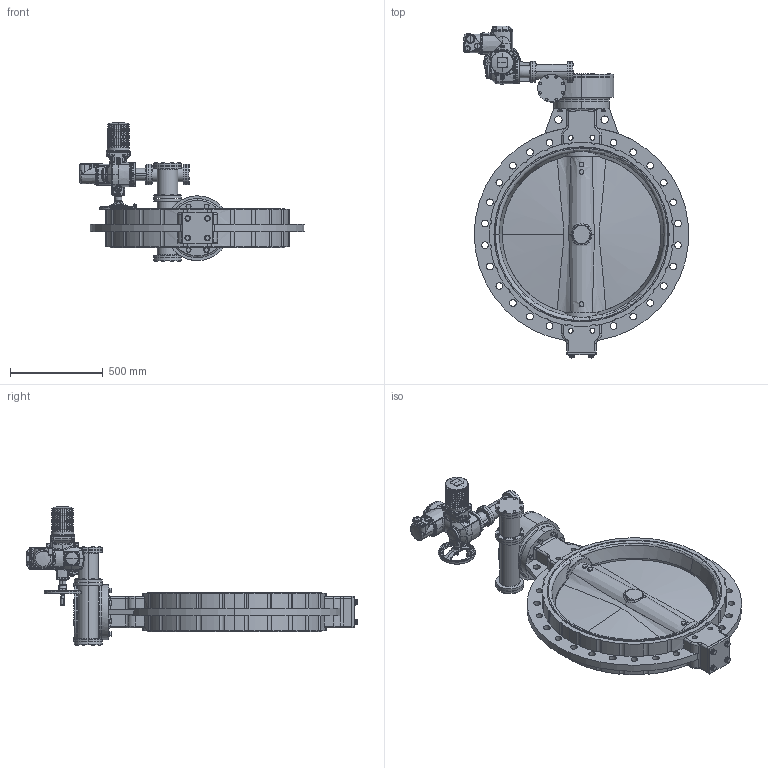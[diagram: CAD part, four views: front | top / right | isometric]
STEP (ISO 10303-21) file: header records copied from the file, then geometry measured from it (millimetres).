
FILE_DESCRIPTION (( 'STEP AP214' ), '1' );
FILE_NAME ('VPE440X-U04EP0900.STEP', '2020-08-04T16:20:34', ( '' ), ( '' ), 'SwSTEP 2.0', 'SolidWorks 2017', '' );
FILE_SCHEMA (( 'AUTOMOTIVE_DESIGN' ));
Length unit declared in the file: millimetre
Products named in the file (1): VPE440X-U04EP0900
Bounding box: 1216.05 x 1793.9 x 754.06 mm (x, y, z)
Surface area: 5776823.9 mm2 (no closed solid volume)
Topology: 0 solids, 181 shells, 1884 faces, 6599 edges, 4680 vertices
Faces by surface type: bspline 536, cylinder 531, plane 515, cone 261, torus 41
Entity records: 200668 total; most frequent: CARTESIAN_POINT 130102, ORIENTED_EDGE 10034, DIRECTION 8803, EDGE_CURVE 6572, VERTEX_POINT 4680, AXIS2_PLACEMENT_3D 3456, B_SPLINE_CURVE_WITH_KNOTS 2459, EDGE_LOOP 2125
